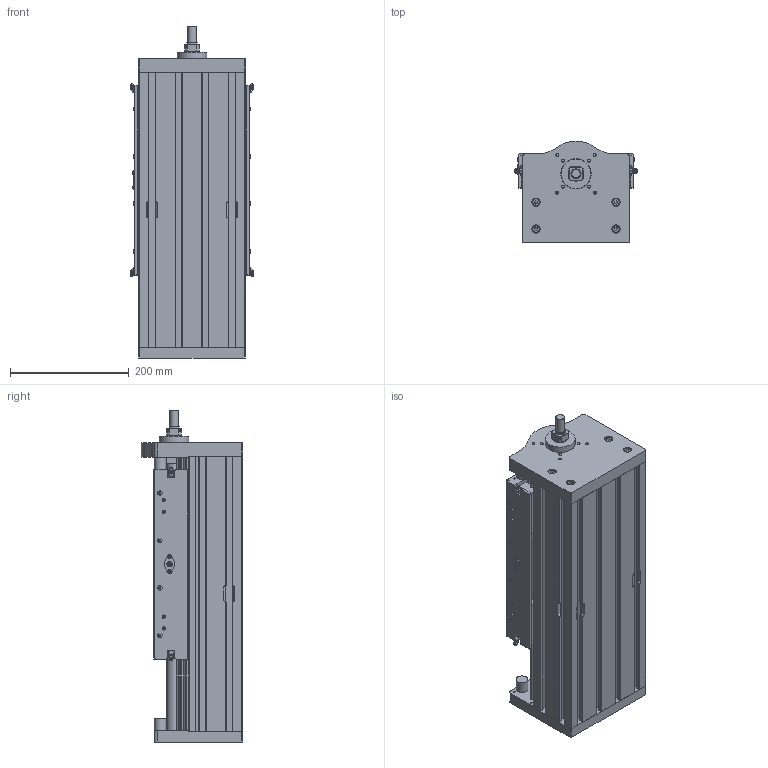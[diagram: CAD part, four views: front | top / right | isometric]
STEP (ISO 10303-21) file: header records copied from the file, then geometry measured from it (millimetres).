
FILE_DESCRIPTION(/* description */ ('Asse VU-K180LE-25H-25-N'),/* implementation_level */ '2;1');
FILE_NAME(/* name */ 'VU-K180LE-25H-25-N-CLIENTE.stp',/* time_stamp */ '2025-02-06T09:34:24+01:00',/* author */ ('davide.cavedon'),/* organization */ (''),/* preprocessor_version */ 'ST-DEVELOPER v20',/* originating_system */ 'Autodesk Inventor 2024',/* authorisation */ '');
FILE_SCHEMA (('CONFIG_CONTROL_DESIGN'));
Products named in the file (5): VU-K180LE-25H-25-N-CLIENTE; C_VU-K180LE-25H-25-N-001; C_VU-K180SE-25H-25-N-003; C_VU-K180SE-25H-25-N-002; C_VU-K180LE-25H-25-N-002
Assembly tree (4 placements, depth 2):
  VU-K180LE-25H-25-N-CLIENTE
    C_VU-K180LE-25H-25-N-001
    C_VU-K180SE-25H-25-N-003
    C_VU-K180SE-25H-25-N-002
    C_VU-K180LE-25H-25-N-002
Bounding box: 209.02 x 170.5 x 560 mm (x, y, z)
Volume: 10422318.8 mm3; surface area: 1045772.7 mm2
Topology: 11 solids, 97 shells, 2746 faces, 7141 edges, 4685 vertices
Faces by surface type: plane 1627, cylinder 657, cone 248, torus 104, bspline 104, sphere 6
Full cylindrical faces by diameter (mm): 0.5 x4, 1 x8, 2 x5, 2.459 x2, 2.5 x2, 3 x10, 3.242 x32, 3.5 x2, 4 x8, 4.134 x8, 4.25 x2, 4.3 x2, 4.5 x11, 4.917 x24, 4.95 x2, 5 x14, 5.15 x2, 5.5 x8, 5.7 x2, 5.85 x2, 6 x36, 6.6 x20, 6.647 x26, 6.9 x4, 7 x6, 7.3 x8, 7.6 x10, 7.847 x4, 8 x10, 8.15 x2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
Entity records: 96854 total; most frequent: CARTESIAN_POINT 27743, ORIENTED_EDGE 13962, DIRECTION 13670, EDGE_CURVE 7039, VERTEX_POINT 4685, AXIS2_PLACEMENT_3D 4660, LINE 4350, VECTOR 4350
